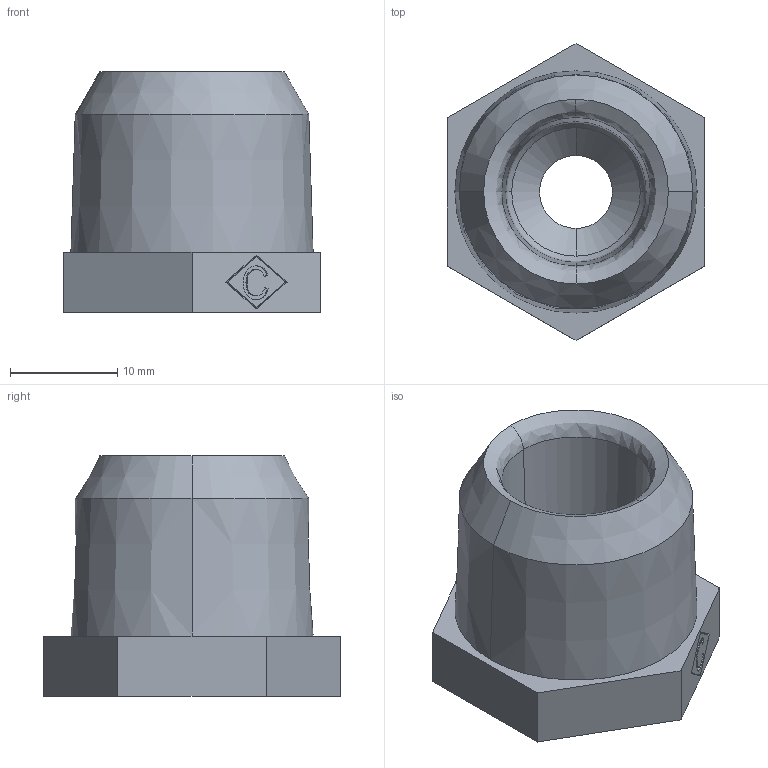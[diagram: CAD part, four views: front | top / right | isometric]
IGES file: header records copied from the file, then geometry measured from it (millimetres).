
Global section: file name: No Iges File Name specified; native system: AutoDesk Inventor R12.0; preprocessor: AutoDesk Inventor Iges Exporter R12.0; date: 20090910.125957; units: millimetre
Bounding box: 24 x 27.71 x 22.4 mm (x, y, z)
Volume: 6489.2 mm3; surface area: 3059.8 mm2
Topology: 1 solids, 1 shells, 45 faces, 116 edges, 76 vertices
Faces by surface type: plane 21, bspline 12, revolution 8, cone 4
